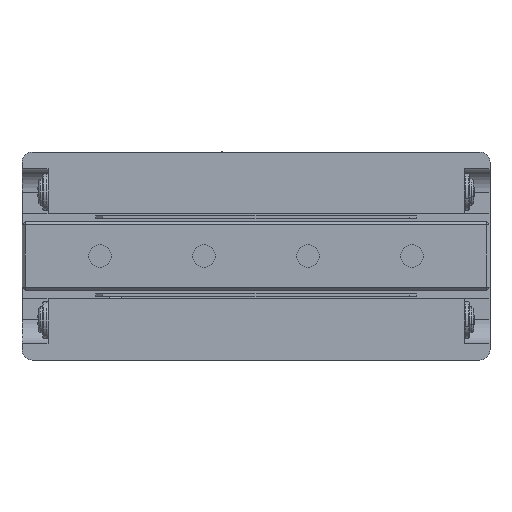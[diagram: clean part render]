
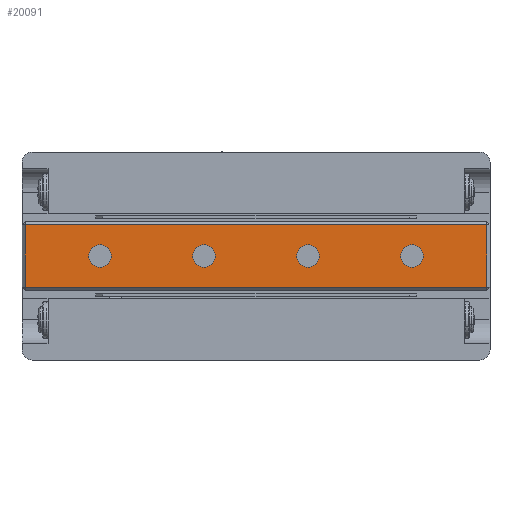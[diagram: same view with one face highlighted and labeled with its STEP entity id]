
A CAD part, front view. The second image highlights one B-rep face of the part: STEP entity #20091.
In plain terms, the highlighted planar face has unit normal (0, -1, 0).
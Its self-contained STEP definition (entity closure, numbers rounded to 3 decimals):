
#18 = VERTEX_POINT ( 'NONE', #22366 ) ;
#361 = DIRECTION ( 'NONE',  ( 0., 0., 1. ) ) ;
#765 = AXIS2_PLACEMENT_3D ( 'NONE', #26393, #13875, #1187 ) ;
#1053 = CARTESIAN_POINT ( 'NONE',  ( -9.95, 1.881, -0.001 ) ) ;
#1170 = CARTESIAN_POINT ( 'NONE',  ( 20.05, 1.881, -1.101 ) ) ;
#1187 = DIRECTION ( 'NONE',  ( 0., 0., 1. ) ) ;
#1303 = CIRCLE ( 'NONE', #24930, 1.1 ) ;
#1336 = FACE_OUTER_BOUND ( 'NONE', #10887, .T. ) ;
#1554 = CARTESIAN_POINT ( 'NONE',  ( -9.95, 1.881, -1.101 ) ) ;
#1593 = ORIENTED_EDGE ( 'NONE', *, *, #6086, .T. ) ;
#1711 = CARTESIAN_POINT ( 'NONE',  ( 20.05, 1.881, -0.001 ) ) ;
#1743 = DIRECTION ( 'NONE',  ( 0., 1., 0. ) ) ;
#1788 = VERTEX_POINT ( 'NONE', #18720 ) ;
#1909 = AXIS2_PLACEMENT_3D ( 'NONE', #2175, #4324, #19133 ) ;
#2041 = EDGE_LOOP ( 'NONE', ( #1593, #21038 ) ) ;
#2092 = AXIS2_PLACEMENT_3D ( 'NONE', #25575, #13076, #361 ) ;
#2175 = CARTESIAN_POINT ( 'NONE',  ( -17.45, 1.881, 3.299 ) ) ;
#2347 = ORIENTED_EDGE ( 'NONE', *, *, #15578, .T. ) ;
#2646 = VERTEX_POINT ( 'NONE', #9954 ) ;
#2746 = CIRCLE ( 'NONE', #26477, 1.1 ) ;
#2900 = ORIENTED_EDGE ( 'NONE', *, *, #23637, .T. ) ;
#3175 = DIRECTION ( 'NONE',  ( 0., 0., 1. ) ) ;
#3303 = VERTEX_POINT ( 'NONE', #19249 ) ;
#3394 = EDGE_LOOP ( 'NONE', ( #18335, #13682 ) ) ;
#3623 = CIRCLE ( 'NONE', #6919, 1.1 ) ;
#3738 = CIRCLE ( 'NONE', #16620, 1.1 ) ;
#3836 = DIRECTION ( 'NONE',  ( 0., 0., 1. ) ) ;
#4283 = CIRCLE ( 'NONE', #2092, 1.1 ) ;
#4324 = DIRECTION ( 'NONE',  ( 0., 1., 0. ) ) ;
#4532 = LINE ( 'NONE', #24361, #20098 ) ;
#4629 = VERTEX_POINT ( 'NONE', #17476 ) ;
#5120 = EDGE_CURVE ( 'NONE', #2646, #8509, #1303, .T. ) ;
#5861 = DIRECTION ( 'NONE',  ( 0., 1., 0. ) ) ;
#5889 = EDGE_LOOP ( 'NONE', ( #2347, #14267 ) ) ;
#6086 = EDGE_CURVE ( 'NONE', #8509, #2646, #20796, .T. ) ;
#6518 = VECTOR ( 'NONE', #26610, 1000. ) ;
#6559 = AXIS2_PLACEMENT_3D ( 'NONE', #14434, #1743, #16568 ) ;
#6919 = AXIS2_PLACEMENT_3D ( 'NONE', #18546, #5861, #20667 ) ;
#7077 = DIRECTION ( 'NONE',  ( 0., 1., 0. ) ) ;
#7171 = LINE ( 'NONE', #14102, #6518 ) ;
#7514 = DIRECTION ( 'NONE',  ( 0., 0., 1. ) ) ;
#8509 = VERTEX_POINT ( 'NONE', #19294 ) ;
#9334 = DIRECTION ( 'NONE',  ( 0., 1., 0. ) ) ;
#9546 = ORIENTED_EDGE ( 'NONE', *, *, #15907, .T. ) ;
#9954 = CARTESIAN_POINT ( 'NONE',  ( 0.05, 1.881, -1.101 ) ) ;
#10778 = VERTEX_POINT ( 'NONE', #1170 ) ;
#10838 = CIRCLE ( 'NONE', #6559, 1.1 ) ;
#10887 = EDGE_LOOP ( 'NONE', ( #14401, #26000, #18972, #2900 ) ) ;
#11471 = EDGE_CURVE ( 'NONE', #26053, #11690, #3738, .T. ) ;
#11690 = VERTEX_POINT ( 'NONE', #25162 ) ;
#11720 = CARTESIAN_POINT ( 'NONE',  ( -17.15, 1.881, 2.999 ) ) ;
#12628 = FACE_BOUND ( 'NONE', #2041, .T. ) ;
#13076 = DIRECTION ( 'NONE',  ( 0., 1., 0. ) ) ;
#13682 = ORIENTED_EDGE ( 'NONE', *, *, #11471, .T. ) ;
#13868 = EDGE_CURVE ( 'NONE', #10778, #18, #4283, .T. ) ;
#13875 = DIRECTION ( 'NONE',  ( 0., 1., 0. ) ) ;
#14102 = CARTESIAN_POINT ( 'NONE',  ( -17.45, 1.881, -3.001 ) ) ;
#14193 = LINE ( 'NONE', #17907, #24683 ) ;
#14239 = EDGE_LOOP ( 'NONE', ( #9546, #17558 ) ) ;
#14267 = ORIENTED_EDGE ( 'NONE', *, *, #13868, .T. ) ;
#14401 = ORIENTED_EDGE ( 'NONE', *, *, #20566, .T. ) ;
#14434 = CARTESIAN_POINT ( 'NONE',  ( 10.05, 1.881, -0.001 ) ) ;
#14543 = EDGE_CURVE ( 'NONE', #23627, #1788, #14193, .T. ) ;
#15578 = EDGE_CURVE ( 'NONE', #18, #10778, #23676, .T. ) ;
#15856 = DIRECTION ( 'NONE',  ( 0., 1., 0. ) ) ;
#15907 = EDGE_CURVE ( 'NONE', #18510, #25687, #10838, .T. ) ;
#16525 = DIRECTION ( 'NONE',  ( 0., 1., 0. ) ) ;
#16568 = DIRECTION ( 'NONE',  ( 0., 0., 1. ) ) ;
#16620 = AXIS2_PLACEMENT_3D ( 'NONE', #1053, #15856, #3175 ) ;
#16702 = EDGE_CURVE ( 'NONE', #1788, #3303, #7171, .T. ) ;
#17476 = CARTESIAN_POINT ( 'NONE',  ( 27.25, 1.881, 2.999 ) ) ;
#17558 = ORIENTED_EDGE ( 'NONE', *, *, #20900, .T. ) ;
#17574 = FACE_BOUND ( 'NONE', #5889, .T. ) ;
#17907 = CARTESIAN_POINT ( 'NONE',  ( -17.15, 1.881, 3.299 ) ) ;
#18228 = FACE_BOUND ( 'NONE', #3394, .T. ) ;
#18335 = ORIENTED_EDGE ( 'NONE', *, *, #18408, .T. ) ;
#18408 = EDGE_CURVE ( 'NONE', #11690, #26053, #2746, .T. ) ;
#18510 = VERTEX_POINT ( 'NONE', #24408 ) ;
#18546 = CARTESIAN_POINT ( 'NONE',  ( 10.05, 1.881, -0.001 ) ) ;
#18720 = CARTESIAN_POINT ( 'NONE',  ( -17.15, 1.881, -3.001 ) ) ;
#18961 = PLANE ( 'NONE',  #1909 ) ;
#18972 = ORIENTED_EDGE ( 'NONE', *, *, #16702, .T. ) ;
#19133 = DIRECTION ( 'NONE',  ( 0., 0., 1. ) ) ;
#19249 = CARTESIAN_POINT ( 'NONE',  ( 27.25, 1.881, -3.001 ) ) ;
#19294 = CARTESIAN_POINT ( 'NONE',  ( 0.05, 1.881, 1.099 ) ) ;
#19783 = CARTESIAN_POINT ( 'NONE',  ( 0.05, 1.881, -0.001 ) ) ;
#20031 = DIRECTION ( 'NONE',  ( 0., 0., -1. ) ) ;
#20091 = ADVANCED_FACE ( 'NONE', ( #1336, #12628, #18228, #23108, #17574 ), #18961, .F. ) ;
#20098 = VECTOR ( 'NONE', #7514, 1000. ) ;
#20202 = LINE ( 'NONE', #23381, #20860 ) ;
#20566 = EDGE_CURVE ( 'NONE', #4629, #23627, #20202, .T. ) ;
#20667 = DIRECTION ( 'NONE',  ( 0., 0., 1. ) ) ;
#20796 = CIRCLE ( 'NONE', #765, 1.1 ) ;
#20860 = VECTOR ( 'NONE', #25468, 1000. ) ;
#20900 = EDGE_CURVE ( 'NONE', #25687, #18510, #3623, .T. ) ;
#21038 = ORIENTED_EDGE ( 'NONE', *, *, #5120, .T. ) ;
#21287 = AXIS2_PLACEMENT_3D ( 'NONE', #1711, #16525, #3836 ) ;
#21887 = DIRECTION ( 'NONE',  ( 0., 0., 1. ) ) ;
#21997 = CARTESIAN_POINT ( 'NONE',  ( -9.95, 1.881, -0.001 ) ) ;
#22366 = CARTESIAN_POINT ( 'NONE',  ( 20.05, 1.881, 1.099 ) ) ;
#23108 = FACE_BOUND ( 'NONE', #14239, .T. ) ;
#23381 = CARTESIAN_POINT ( 'NONE',  ( -17.45, 1.881, 2.999 ) ) ;
#23627 = VERTEX_POINT ( 'NONE', #11720 ) ;
#23637 = EDGE_CURVE ( 'NONE', #3303, #4629, #4532, .T. ) ;
#23676 = CIRCLE ( 'NONE', #21287, 1.1 ) ;
#24053 = DIRECTION ( 'NONE',  ( 0., 0., 1. ) ) ;
#24361 = CARTESIAN_POINT ( 'NONE',  ( 27.25, 1.881, 3.299 ) ) ;
#24408 = CARTESIAN_POINT ( 'NONE',  ( 10.05, 1.881, 1.099 ) ) ;
#24683 = VECTOR ( 'NONE', #20031, 1000. ) ;
#24930 = AXIS2_PLACEMENT_3D ( 'NONE', #19783, #7077, #21887 ) ;
#24983 = CARTESIAN_POINT ( 'NONE',  ( 10.05, 1.881, -1.101 ) ) ;
#25162 = CARTESIAN_POINT ( 'NONE',  ( -9.95, 1.881, 1.099 ) ) ;
#25468 = DIRECTION ( 'NONE',  ( -1., 0., 0. ) ) ;
#25575 = CARTESIAN_POINT ( 'NONE',  ( 20.05, 1.881, -0.001 ) ) ;
#25687 = VERTEX_POINT ( 'NONE', #24983 ) ;
#26000 = ORIENTED_EDGE ( 'NONE', *, *, #14543, .T. ) ;
#26053 = VERTEX_POINT ( 'NONE', #1554 ) ;
#26393 = CARTESIAN_POINT ( 'NONE',  ( 0.05, 1.881, -0.001 ) ) ;
#26477 = AXIS2_PLACEMENT_3D ( 'NONE', #21997, #9334, #24053 ) ;
#26610 = DIRECTION ( 'NONE',  ( 1., 0., 0. ) ) ;
